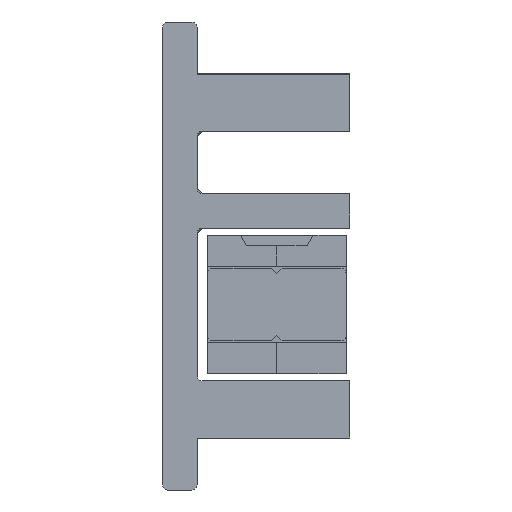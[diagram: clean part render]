
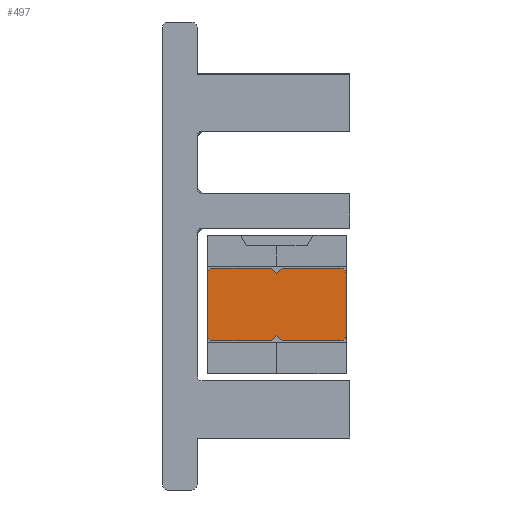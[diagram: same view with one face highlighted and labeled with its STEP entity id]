
A CAD part, front view. The second image highlights one B-rep face of the part: STEP entity #497.
In plain terms, the highlighted planar face has unit normal (0, -1, 0) as drawn and (0, 0, 1) by its records, which use the part's own axes.
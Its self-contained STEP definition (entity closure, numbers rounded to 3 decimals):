
#74 = DIRECTION ( 'NONE',  ( 0., 0., -1. ) ) ;
#103 = EDGE_CURVE ( 'NONE', #4249, #3875, #5801, .T. ) ;
#205 = VERTEX_POINT ( 'NONE', #5082 ) ;
#213 = DIRECTION ( 'NONE',  ( 1., 0., 0. ) ) ;
#236 = VERTEX_POINT ( 'NONE', #2123 ) ;
#263 = LINE ( 'NONE', #4174, #4560 ) ;
#292 = VERTEX_POINT ( 'NONE', #2637 ) ;
#302 = PLANE ( 'NONE',  #2486 ) ;
#304 = ORIENTED_EDGE ( 'NONE', *, *, #2252, .F. ) ;
#327 = CARTESIAN_POINT ( 'NONE',  ( 0., 3.7, 2770. ) ) ;
#352 = DIRECTION ( 'NONE',  ( 0., 0., -1. ) ) ;
#412 = ORIENTED_EDGE ( 'NONE', *, *, #6124, .F. ) ;
#497 = ADVANCED_FACE ( 'NONE', ( #4679 ), #302, .F. ) ;
#685 = DIRECTION ( 'NONE',  ( -0.707, 0.707, 0. ) ) ;
#687 = VERTEX_POINT ( 'NONE', #327 ) ;
#769 = DIRECTION ( 'NONE',  ( 0., 0., -1. ) ) ;
#772 = ORIENTED_EDGE ( 'NONE', *, *, #103, .F. ) ;
#777 = VECTOR ( 'NONE', #2044, 1000. ) ;
#785 = LINE ( 'NONE', #2757, #1981 ) ;
#874 = CARTESIAN_POINT ( 'NONE',  ( 4.2, 3.7, 2770. ) ) ;
#922 = CARTESIAN_POINT ( 'NONE',  ( 4.2, 7.7, 2770. ) ) ;
#946 = DIRECTION ( 'NONE',  ( -0.707, -0.707, 0. ) ) ;
#1005 = EDGE_CURVE ( 'NONE', #2780, #292, #5647, .T. ) ;
#1027 = CARTESIAN_POINT ( 'NONE',  ( 0.3, 7.7, 2770. ) ) ;
#1102 = DIRECTION ( 'NONE',  ( 0., 1., 0. ) ) ;
#1144 = VECTOR ( 'NONE', #4057, 1000. ) ;
#1329 = ORIENTED_EDGE ( 'NONE', *, *, #4217, .F. ) ;
#1405 = ORIENTED_EDGE ( 'NONE', *, *, #3712, .F. ) ;
#1432 = ORIENTED_EDGE ( 'NONE', *, *, #2350, .F. ) ;
#1518 = CARTESIAN_POINT ( 'NONE',  ( 3.9, 4., 2770. ) ) ;
#1582 = LINE ( 'NONE', #4090, #4049 ) ;
#1649 = AXIS2_PLACEMENT_3D ( 'NONE', #1027, #352, #5689 ) ;
#1668 = CARTESIAN_POINT ( 'NONE',  ( 0.3, 8., 2770. ) ) ;
#1683 = EDGE_CURVE ( 'NONE', #687, #205, #4250, .T. ) ;
#1808 = DIRECTION ( 'NONE',  ( 0.707, 0.707, 0. ) ) ;
#1929 = ORIENTED_EDGE ( 'NONE', *, *, #2012, .F. ) ;
#1981 = VECTOR ( 'NONE', #4157, 1000. ) ;
#2012 = EDGE_CURVE ( 'NONE', #3507, #3173, #4936, .T. ) ;
#2044 = DIRECTION ( 'NONE',  ( 0.707, -0.707, 0. ) ) ;
#2101 = AXIS2_PLACEMENT_3D ( 'NONE', #3347, #769, #6115 ) ;
#2115 = ORIENTED_EDGE ( 'NONE', *, *, #1683, .F. ) ;
#2123 = CARTESIAN_POINT ( 'NONE',  ( 3.9, 4., 2770. ) ) ;
#2151 = VERTEX_POINT ( 'NONE', #5181 ) ;
#2192 = AXIS2_PLACEMENT_3D ( 'NONE', #4069, #74, #6009 ) ;
#2205 = VECTOR ( 'NONE', #5690, 1000. ) ;
#2252 = EDGE_CURVE ( 'NONE', #4988, #2780, #5450, .T. ) ;
#2276 = ORIENTED_EDGE ( 'NONE', *, *, #5248, .F. ) ;
#2296 = ORIENTED_EDGE ( 'NONE', *, *, #5104, .F. ) ;
#2299 = VERTEX_POINT ( 'NONE', #6058 ) ;
#2350 = EDGE_CURVE ( 'NONE', #5522, #2151, #785, .T. ) ;
#2408 = ORIENTED_EDGE ( 'NONE', *, *, #5924, .F. ) ;
#2412 = DIRECTION ( 'NONE',  ( 0., 0., -1. ) ) ;
#2486 = AXIS2_PLACEMENT_3D ( 'NONE', #3442, #2412, #3470 ) ;
#2503 = CARTESIAN_POINT ( 'NONE',  ( 0., 7.7, 2770. ) ) ;
#2513 = DIRECTION ( 'NONE',  ( -1., 0., 0. ) ) ;
#2587 = VECTOR ( 'NONE', #1808, 1000. ) ;
#2624 = EDGE_LOOP ( 'NONE', ( #2947, #2408, #1432, #4180, #2276, #772, #2296, #1329, #3710, #304, #1405, #2115, #412, #1929 ) ) ;
#2637 = CARTESIAN_POINT ( 'NONE',  ( 0.3, 8., 2770. ) ) ;
#2748 = CARTESIAN_POINT ( 'NONE',  ( 0.3, 4., 2770. ) ) ;
#2749 = CARTESIAN_POINT ( 'NONE',  ( 0.3, 0., 2770. ) ) ;
#2757 = CARTESIAN_POINT ( 'NONE',  ( 4.2, 7.7, 2770. ) ) ;
#2780 = VERTEX_POINT ( 'NONE', #2503 ) ;
#2947 = ORIENTED_EDGE ( 'NONE', *, *, #4498, .F. ) ;
#2959 = DIRECTION ( 'NONE',  ( 0., -1., 0. ) ) ;
#3053 = CARTESIAN_POINT ( 'NONE',  ( 3.9, 7.7, 2770. ) ) ;
#3173 = VERTEX_POINT ( 'NONE', #5803 ) ;
#3347 = CARTESIAN_POINT ( 'NONE',  ( 3.9, 0.3, 2770. ) ) ;
#3442 = CARTESIAN_POINT ( 'NONE',  ( 18.4, -123.9, 2770. ) ) ;
#3470 = DIRECTION ( 'NONE',  ( 0., 1., 0. ) ) ;
#3507 = VERTEX_POINT ( 'NONE', #2749 ) ;
#3547 = CIRCLE ( 'NONE', #5975, 0.3 ) ;
#3647 = CIRCLE ( 'NONE', #2101, 0.3 ) ;
#3710 = ORIENTED_EDGE ( 'NONE', *, *, #1005, .F. ) ;
#3712 = EDGE_CURVE ( 'NONE', #205, #4988, #1582, .T. ) ;
#3748 = VERTEX_POINT ( 'NONE', #5456 ) ;
#3875 = VERTEX_POINT ( 'NONE', #4696 ) ;
#3918 = DIRECTION ( 'NONE',  ( 0., 0., -1. ) ) ;
#4039 = LINE ( 'NONE', #5080, #777 ) ;
#4049 = VECTOR ( 'NONE', #685, 1000. ) ;
#4057 = DIRECTION ( 'NONE',  ( 0., 1., 0. ) ) ;
#4069 = CARTESIAN_POINT ( 'NONE',  ( 0.3, 0.3, 2770. ) ) ;
#4084 = LINE ( 'NONE', #1668, #4763 ) ;
#4090 = CARTESIAN_POINT ( 'NONE',  ( 0., 4.3, 2770. ) ) ;
#4108 = VECTOR ( 'NONE', #2959, 1000. ) ;
#4157 = DIRECTION ( 'NONE',  ( 0., -1., 0. ) ) ;
#4162 = LINE ( 'NONE', #6101, #2205 ) ;
#4174 = CARTESIAN_POINT ( 'NONE',  ( 0., 7.7, 2770. ) ) ;
#4180 = ORIENTED_EDGE ( 'NONE', *, *, #5866, .F. ) ;
#4217 = EDGE_CURVE ( 'NONE', #292, #2299, #4084, .T. ) ;
#4249 = VERTEX_POINT ( 'NONE', #5299 ) ;
#4250 = LINE ( 'NONE', #2748, #2587 ) ;
#4498 = EDGE_CURVE ( 'NONE', #3748, #3507, #4162, .T. ) ;
#4560 = VECTOR ( 'NONE', #1102, 1000. ) ;
#4679 = FACE_OUTER_BOUND ( 'NONE', #2624, .T. ) ;
#4688 = CARTESIAN_POINT ( 'NONE',  ( 0., 4.3, 2770. ) ) ;
#4696 = CARTESIAN_POINT ( 'NONE',  ( 4.2, 4.3, 2770. ) ) ;
#4763 = VECTOR ( 'NONE', #213, 1000. ) ;
#4936 = CIRCLE ( 'NONE', #2192, 0.3 ) ;
#4988 = VERTEX_POINT ( 'NONE', #4688 ) ;
#5080 = CARTESIAN_POINT ( 'NONE',  ( 4.2, 3.7, 2770. ) ) ;
#5082 = CARTESIAN_POINT ( 'NONE',  ( 0.3, 4., 2770. ) ) ;
#5104 = EDGE_CURVE ( 'NONE', #2299, #4249, #3547, .T. ) ;
#5181 = CARTESIAN_POINT ( 'NONE',  ( 4.2, 0.3, 2770. ) ) ;
#5248 = EDGE_CURVE ( 'NONE', #3875, #236, #5333, .T. ) ;
#5299 = CARTESIAN_POINT ( 'NONE',  ( 4.2, 7.7, 2770. ) ) ;
#5333 = LINE ( 'NONE', #1518, #5361 ) ;
#5361 = VECTOR ( 'NONE', #946, 1000. ) ;
#5450 = LINE ( 'NONE', #5998, #1144 ) ;
#5456 = CARTESIAN_POINT ( 'NONE',  ( 3.9, 0., 2770. ) ) ;
#5522 = VERTEX_POINT ( 'NONE', #874 ) ;
#5647 = CIRCLE ( 'NONE', #1649, 0.3 ) ;
#5689 = DIRECTION ( 'NONE',  ( -1., 0., 0. ) ) ;
#5690 = DIRECTION ( 'NONE',  ( -1., 0., 0. ) ) ;
#5801 = LINE ( 'NONE', #922, #4108 ) ;
#5803 = CARTESIAN_POINT ( 'NONE',  ( 0., 0.3, 2770. ) ) ;
#5866 = EDGE_CURVE ( 'NONE', #236, #5522, #4039, .T. ) ;
#5924 = EDGE_CURVE ( 'NONE', #2151, #3748, #3647, .T. ) ;
#5975 = AXIS2_PLACEMENT_3D ( 'NONE', #3053, #3918, #2513 ) ;
#5998 = CARTESIAN_POINT ( 'NONE',  ( 0., 7.7, 2770. ) ) ;
#6009 = DIRECTION ( 'NONE',  ( -1., 0., 0. ) ) ;
#6058 = CARTESIAN_POINT ( 'NONE',  ( 3.9, 8., 2770. ) ) ;
#6101 = CARTESIAN_POINT ( 'NONE',  ( 0.3, 0., 2770. ) ) ;
#6115 = DIRECTION ( 'NONE',  ( -1., 0., 0. ) ) ;
#6124 = EDGE_CURVE ( 'NONE', #3173, #687, #263, .T. ) ;
